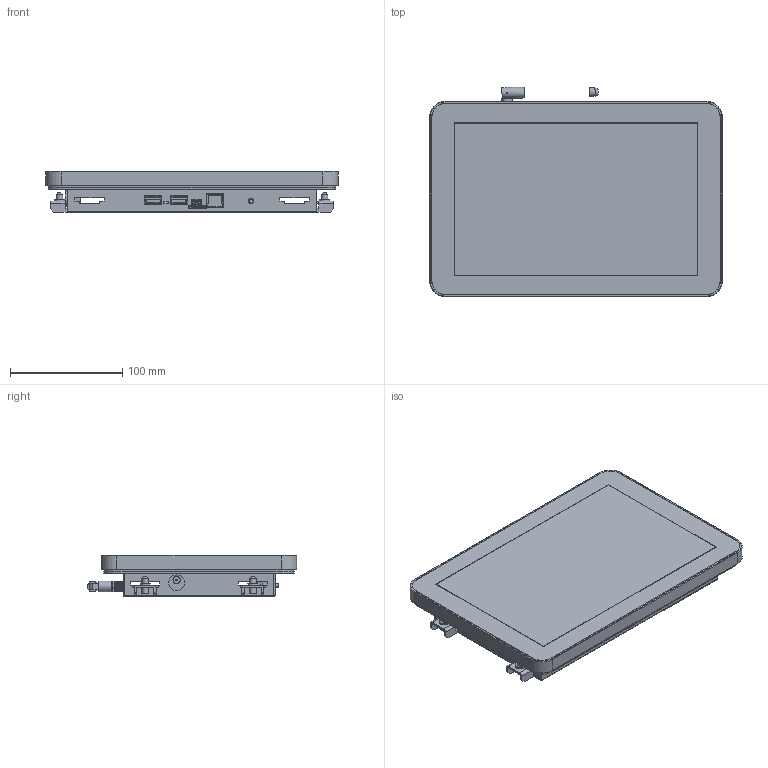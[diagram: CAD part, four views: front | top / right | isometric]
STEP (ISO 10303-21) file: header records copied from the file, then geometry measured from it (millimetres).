
FILE_DESCRIPTION(/* description */ (''),/* implementation_level */ '2;1');
FILE_NAME(/* name */ 'C:/Temp/STEP/VISIO-10-C.step',/* time_stamp */ '2020-04-03T14:09:50+03:00',/* author */ (''),/* organization */ (''),/* preprocessor_version */ 'ST-DEVELOPER v18',/* originating_system */ 'Autodesk Translation Framework v8.12.0.6',/* authorisation */ '');
FILE_SCHEMA (('AUTOMOTIVE_DESIGN { 1 0 10303 214 3 1 1 }'));
Length unit declared in the file: millimetre
Products named in the file (1): VISIO-10-C
Bounding box: 261 x 186.78 x 37.1 mm (x, y, z)
Volume: 390993.9 mm3; surface area: 342430.4 mm2
Topology: 25 solids, 41 shells, 1094 faces, 2848 edges, 1914 vertices
Faces by surface type: plane 825, cylinder 225, cone 29, sphere 9, bspline 5, torus 1
Full cylindrical faces by diameter (mm): 0.1 x5, 1 x2, 1.2 x2, 1.5 x1, 2 x2, 2.5 x17, 3 x1, 3.5 x13, 4 x4, 4.3 x2, 4.5 x1, 5 x4, 5.1 x8, 5.4 x12, 5.5 x20, 6 x4, 6.5 x1, 7 x1, 7.475 x1, 8.7 x1, 9 x5, 9.5 x2, 10.2 x1, 14 x1
Entity records: 35526 total; most frequent: CARTESIAN_POINT 6563, DIRECTION 5684, ORIENTED_EDGE 5626, EDGE_CURVE 2845, LINE 2084, VECTOR 2084, VERTEX_POINT 1913, AXIS2_PLACEMENT_3D 1800
